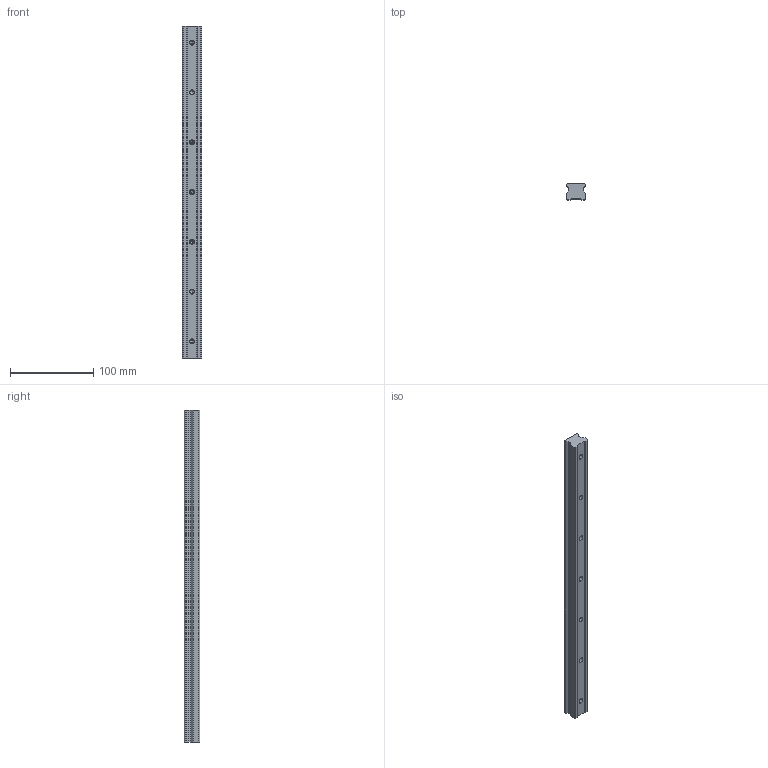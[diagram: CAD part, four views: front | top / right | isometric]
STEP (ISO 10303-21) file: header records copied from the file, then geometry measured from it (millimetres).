
FILE_DESCRIPTION (( 'STEP AP203' ), '1' );
FILE_NAME ('L1016.BRF25-0400.step', '2019-06-13T08:34:39', ( '' ), ( '' ), 'SwSTEP 2.0', 'SolidWorks 2017', '' );
FILE_SCHEMA (( 'CONFIG_CONTROL_DESIGN' ));
Length unit declared in the file: millimetre
Products named in the file (1): L1016.BRF25-0400
Bounding box: 23 x 19.2 x 400 mm (x, y, z)
Volume: 152604.2 mm3; surface area: 37561.4 mm2
Topology: 1 solids, 1 shells, 75 faces, 184 edges, 111 vertices
Faces by surface type: cylinder 32, plane 29, cone 14
Entity records: 2189 total; most frequent: DIRECTION 386, CARTESIAN_POINT 357, ORIENTED_EDGE 340, EDGE_CURVE 170, AXIS2_PLACEMENT_3D 140, VERTEX_POINT 111, VECTOR 106, LINE 106
